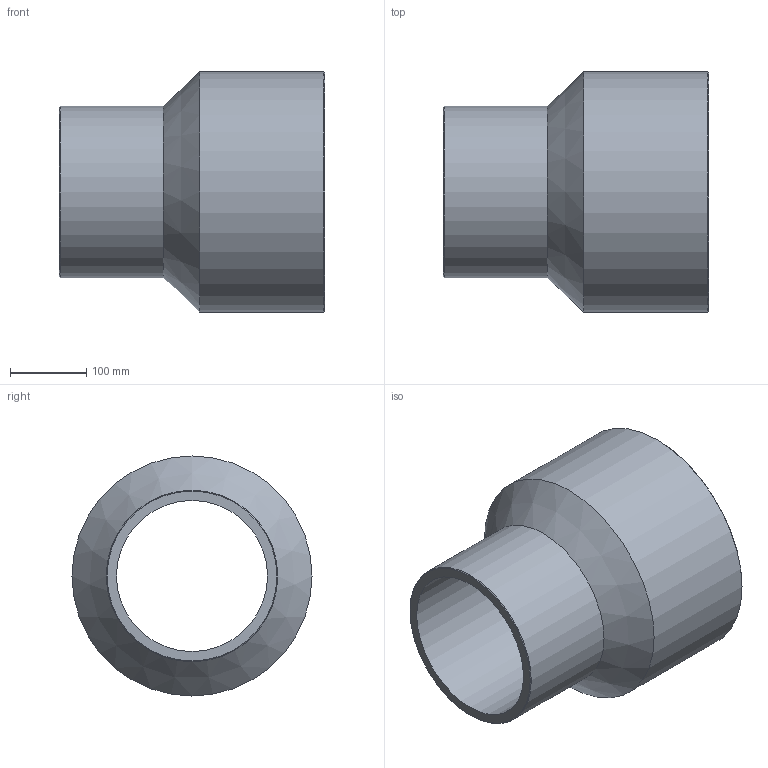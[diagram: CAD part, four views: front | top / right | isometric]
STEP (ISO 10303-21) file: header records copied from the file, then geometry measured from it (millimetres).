
FILE_DESCRIPTION(/* description */ ('Unknown'),/* implementation_level */ '2;1');
FILE_NAME(/* name */ 'RP315225B',/* time_stamp */ '2021-09-17T12:24:13+02:00',/* author */ ('Unknown'),/* organization */ ('Unknown'),/* preprocessor_version */ 'ST-DEVELOPER v16.7',/* originating_system */ 'Solid Edge',/* authorisation */ 'Unknown');
FILE_SCHEMA (('AUTOMOTIVE_DESIGN {1 0 10303 214 3 1 1}'));
Length unit declared in the file: millimetre
Products named in the file (1): RP315225B
Bounding box: 348 x 315 x 315 mm (x, y, z)
Volume: 5701857.7 mm3; surface area: 606976.7 mm2
Topology: 1 solids, 1 shells, 10 faces, 19 edges, 11 vertices
Faces by surface type: cylinder 4, cone 4, plane 2
Full cylindrical faces by diameter (mm): 198.2 x1, 225 x1, 277.6 x1, 315 x1
Entity records: 238 total; most frequent: DIRECTION 42, CARTESIAN_POINT 31, AXIS2_PLACEMENT_3D 21, ORIENTED_EDGE 20, EDGE_LOOP 20, FACE_BOUND 20, EDGE_CURVE 10, VERTEX_POINT 10
